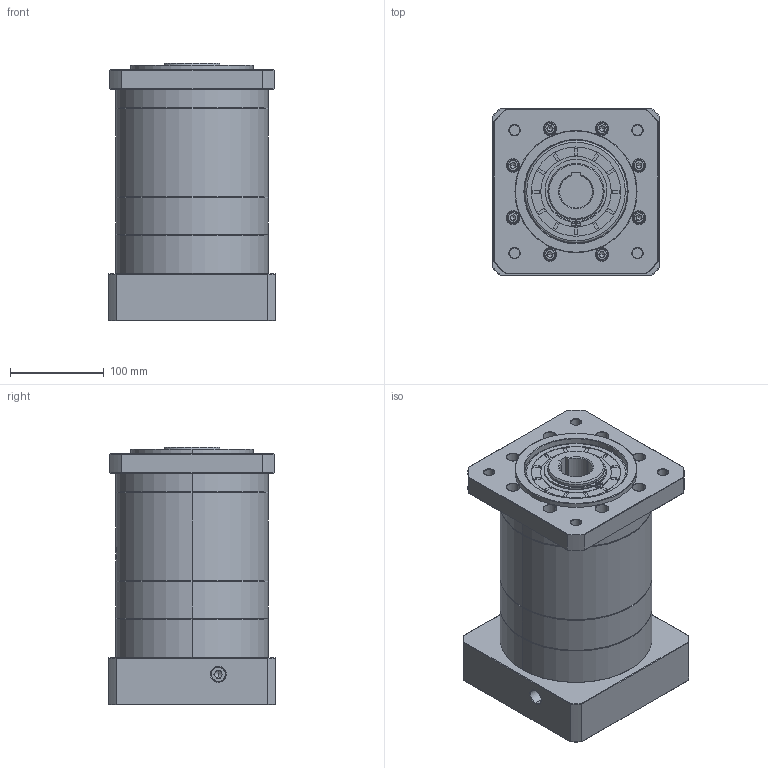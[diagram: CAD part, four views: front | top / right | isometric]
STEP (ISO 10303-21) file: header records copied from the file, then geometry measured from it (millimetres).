
FILE_DESCRIPTION (( 'STEP AP214' ), '1' );
FILE_NAME ('ZF160-K35-L3-35-150-200-M12.step', '2023-03-21T04:33:53', ( '' ), ( '' ), 'SwSTEP 2.0', 'SolidWorks 2016', '' );
FILE_SCHEMA (( 'AUTOMOTIVE_DESIGN' ));
Length unit declared in the file: millimetre
Products named in the file (1): ZF160-K35-L3-35-150-200-M12
Bounding box: 178 x 178 x 274.2 mm (x, y, z)
Volume: 5742201.8 mm3; surface area: 376899.3 mm2
Topology: 6 solids, 6 shells, 1563 faces, 4060 edges, 2600 vertices
Faces by surface type: plane 637, cylinder 373, cone 322, bspline 211, torus 20
Entity records: 86706 total; most frequent: CARTESIAN_POINT 33172, ORIENTED_EDGE 8064, DIRECTION 6915, EDGE_CURVE 4032, VERTEX_POINT 2600, AXIS2_PLACEMENT_3D 2397, LINE 2121, VECTOR 2121
